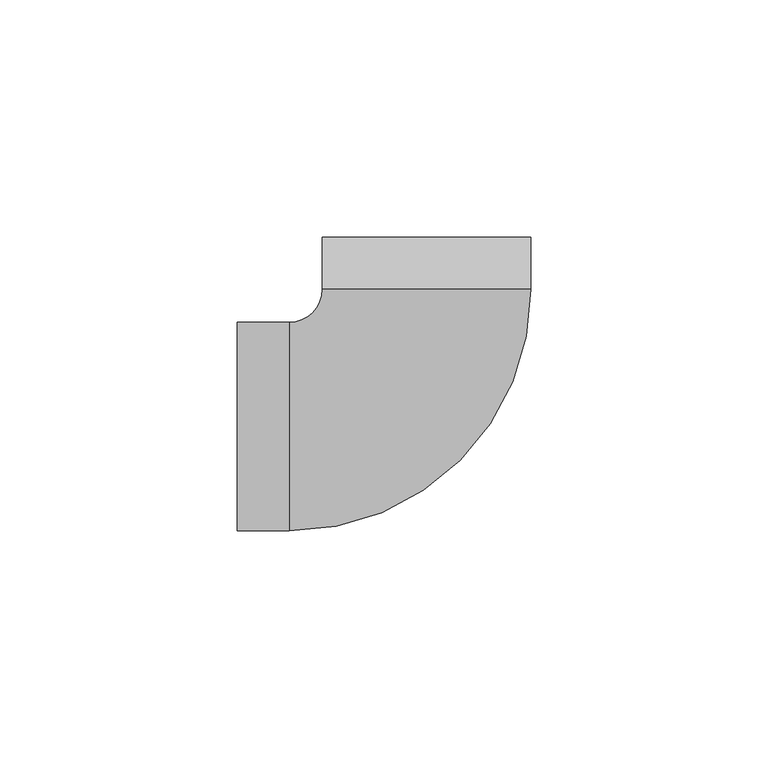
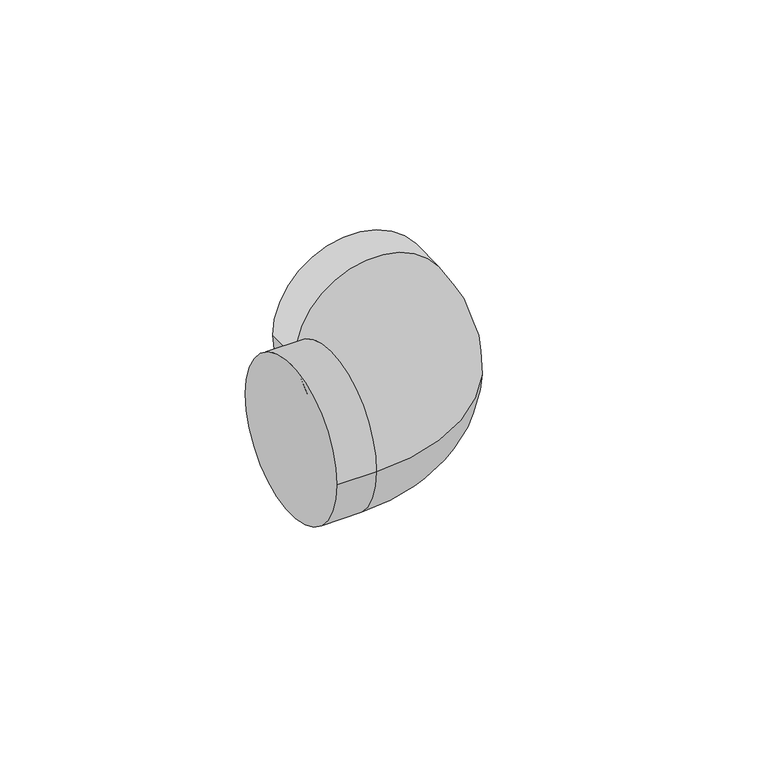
"""IFC4 building model written with IfcOpenShell, lengths in millimetres: pipe fitting geometry, PipeFitting_GirpiHTA_CPVC_Elbows_ForExpansionJoints : PipeFitting_GirpiHTA_CPVC_Elbows_ForExpansionJoints."""

from ifc_helpers import new_model, si_unit, point, frame, origin, place, context, project, spatial, circle_curve, ellipse_curve, trimmed, source, transform, mapped, element, save
from ifc_brep_helpers import plane_surface, cylinder_surface, revolved_surface, advanced_brep


def pipe_fitting_e6044224(model_context):
    return source(origin(), model_context, "Body", "AdvancedBrep", [
        advanced_brep(
        [(-40.0, -22.0, 0.0), (-40.0, 22.0, 0.0), (-29.0, -22.0, 0.0), (-29.0, 22.0, 0.0), (-22.0, 29.0, 0.0), (22.0, 29.0, 0.0), (22.0, 40.0, 0.0), (-22.0, 40.0, 0.0)],
        [
            (0, 1, circle_curve(frame((-40.0, 0.0, 0.0), z_axis=(-1.0, 0.0, 0.0), x_axis=(0.0, 1.0, 0.0)), 22.0)),
            (1, 0, circle_curve(frame((-40.0, 0.0, 0.0), z_axis=(-1.0, 0.0, 0.0), x_axis=(0.0, 1.0, 0.0)), 22.0)),
            (0, 2),
            (2, 3, circle_curve(frame((-29.0, 0.0, 0.0), z_axis=(-1.0, 0.0, 0.0), x_axis=(0.0, 1.0, 0.0)), 22.0)),
            (3, 1),
            (3, 2, circle_curve(frame((-29.0, 0.0, 0.0), z_axis=(-1.0, 0.0, 0.0), x_axis=(0.0, 1.0, 0.0)), 22.0)),
            (4, 3, circle_curve(frame((-29.0, 29.0, 0.0), z_axis=(0.0, 0.0, -1.0), x_axis=(0.0, -1.0, 0.0)), 7.0)),
            (2, 5, circle_curve(frame((-29.0, 29.0, 0.0), z_axis=(0.0, 0.0, 1.0), x_axis=(0.0, -1.0, 0.0)), 51.0)),
            (5, 4, circle_curve(frame((0.0, 29.0, 0.0), z_axis=(0.0, -1.0, 0.0), x_axis=(-1.0, 0.0, 0.0)), 22.0)),
            (4, 5, circle_curve(frame((0.0, 29.0, 0.0), z_axis=(0.0, -1.0, 0.0), x_axis=(-1.0, 0.0, 0.0)), 22.0)),
            (6, 7, circle_curve(frame((0.0, 40.0, 0.0), z_axis=(0.0, 1.0, 0.0), x_axis=(-1.0, 0.0, 0.0)), 22.0)),
            (7, 6, circle_curve(frame((0.0, 40.0, 0.0), z_axis=(0.0, 1.0, 0.0), x_axis=(-1.0, 0.0, 0.0)), 22.0)),
            (5, 6),
            (7, 4),
        ],
        [
            plane_surface(frame((-40.0, 0.0, 0.0), z_axis=(-1.0, 0.0, 0.0), x_axis=(0.0, 0.0, 1.0))),
            cylinder_surface(frame((-40.0, 0.0, 0.0), z_axis=(-1.0, 0.0, 0.0), x_axis=(0.0, 1.0, 0.0)), 22.0),
            revolved_surface(trimmed(ellipse_curve(frame((-29.0, 0.0, 0.0), z_axis=(-1.0, 0.0, 0.0), x_axis=(0.0, 1.0, 0.0)), 22.0, 22.0), [point((-29.0, -22.0, 0.0))], [point((-29.0, 22.0, 0.0))], True, "CARTESIAN"), (-29.0, 29.0, 0.0), (0.0, 0.0, 1.0)),
            revolved_surface(trimmed(ellipse_curve(frame((-29.0, 0.0, 0.0), z_axis=(-1.0, 0.0, 0.0), x_axis=(0.0, 1.0, 0.0)), 22.0, 22.0), [point((-29.0, 22.0, 0.0))], [point((-29.0, -22.0, 0.0))], True, "CARTESIAN"), (-29.0, 29.0, 0.0), (0.0, 0.0, 1.0)),
            plane_surface(frame((0.0, 40.0, 0.0), z_axis=(0.0, 1.0, 0.0), x_axis=(0.0, 0.0, 1.0))),
            cylinder_surface(frame((0.0, 29.0, 0.0), z_axis=(0.0, -1.0, 0.0), x_axis=(-1.0, 0.0, 0.0)), 22.0),
        ],
        [
            (0, [[1, 2]]),
            (1, [[-1, 3, 4, 5]]),
            (1, [[-2, -5, 6, -3]]),
            (2, [[7, -4, 8, 9]]),
            (3, [[-8, -6, -7, 10]]),
            (4, [[11, 12]]),
            (5, [[-9, 13, -12, 14]]),
            (5, [[-10, -14, -11, -13]]),
        ],
    ),
    ])


if __name__ == "__main__":
    model = new_model("IFC4")
    model_context = context("Model", 3, world=origin())
    ifc_project = project(units=[si_unit("LENGTHUNIT", "METRE", prefix="MILLI")], contexts=[model_context])
    site = spatial("IfcSite", under=ifc_project)
    building = spatial("IfcBuilding", under=site)
    placement = place(None, origin())
    pipe_fitting_shape = pipe_fitting_e6044224(model_context)
    element("IfcPipeFitting", 1, ObjectType="PipeFitting_GirpiHTA_CPVC_Elbows_ForExpansionJoints : PipeFitting_GirpiHTA_CPVC_Elbows_ForExpansionJoints", at=placement, inside=building, context=model_context, shape_type="MappedRepresentation", body=[
        mapped(pipe_fitting_shape, transform((0.0, 0.0, 0.0), x_axis=(1.0, 0.0, 0.0), y_axis=(0.0, 1.0, 0.0), z_axis=(0.0, 0.0, 1.0))),
    ])
    save(model, "model.ifc")
